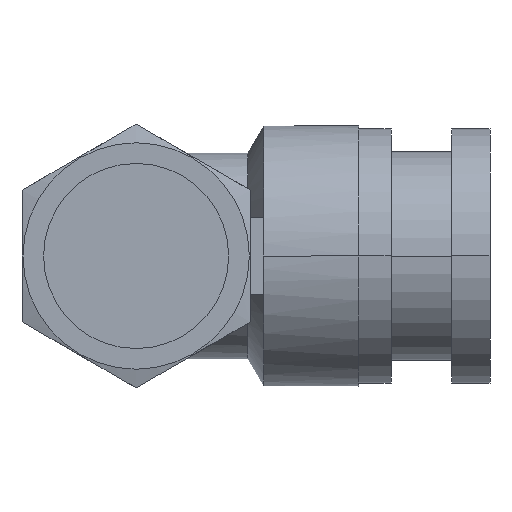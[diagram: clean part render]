
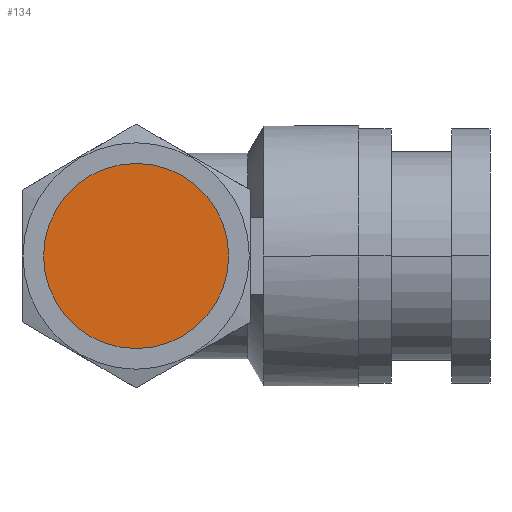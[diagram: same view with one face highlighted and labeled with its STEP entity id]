
A CAD part, front view. The second image highlights one B-rep face of the part: STEP entity #134.
In plain terms, the highlighted planar face has unit normal (0, -1, 0).
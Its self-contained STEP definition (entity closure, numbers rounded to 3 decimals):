
#134 = ADVANCED_FACE( '', ( #261 ), #262, .T. );
#261 = FACE_OUTER_BOUND( '', #388, .T. );
#262 = PLANE( '', #389 );
#388 = EDGE_LOOP( '', ( #855, #856 ) );
#389 = AXIS2_PLACEMENT_3D( '', #857, #858, #859 );
#855 = ORIENTED_EDGE( '', *, *, #863, .T. );
#856 = ORIENTED_EDGE( '', *, *, #1004, .T. );
#857 = CARTESIAN_POINT( '', ( -2.432, -3.15, 0. ) );
#858 = DIRECTION( '', ( 0., -1., 0. ) );
#859 = DIRECTION( '', ( -1., 0., 0. ) );
#863 = EDGE_CURVE( '', #1006, #1010, #1012, .T. );
#1004 = EDGE_CURVE( '', #1010, #1006, #1243, .T. );
#1006 = VERTEX_POINT( '', #1245 );
#1010 = VERTEX_POINT( '', #1250 );
#1012 = CIRCLE( '', #1253, 4.864 );
#1243 = CIRCLE( '', #1832, 4.864 );
#1245 = CARTESIAN_POINT( '', ( -4.864, -3.15, 0. ) );
#1250 = CARTESIAN_POINT( '', ( 4.864, -3.15, 0. ) );
#1253 = AXIS2_PLACEMENT_3D( '', #1838, #1839, #1840 );
#1832 = AXIS2_PLACEMENT_3D( '', #2059, #2060, #2061 );
#1838 = CARTESIAN_POINT( '', ( 0., -3.15, 0. ) );
#1839 = DIRECTION( '', ( 0., -1., 0. ) );
#1840 = DIRECTION( '', ( -1., 0., 0. ) );
#2059 = CARTESIAN_POINT( '', ( 0., -3.15, 0. ) );
#2060 = DIRECTION( '', ( 0., -1., 0. ) );
#2061 = DIRECTION( '', ( -1., 0., 0. ) );
